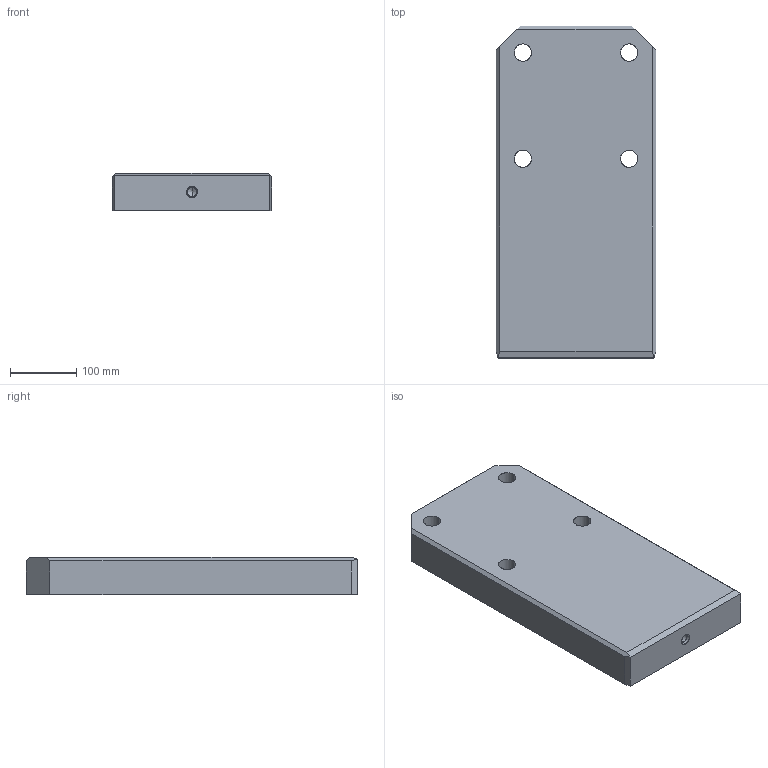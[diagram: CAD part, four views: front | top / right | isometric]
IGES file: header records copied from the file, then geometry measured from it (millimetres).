
Start section: START RECORD GO HERE.
Global section: file name: A927-240X500X56.igs; native system: DASSAULT SYSTEMES CATIA V5 R20 - www.3ds.com; preprocessor: CATIA Version 5 Release 20 ; author: Utente; organization: NB04-ASUS; date: 20200408.202049; units: millimetre
Bounding box: 240 x 500 x 56 mm (x, y, z)
Surface area: 334873.8 mm2 (no closed solid volume)
Topology: 0 solids, 0 shells, 52 faces, 242 edges, 240 vertices
Faces by surface type: revolution 32, extrusion 20
